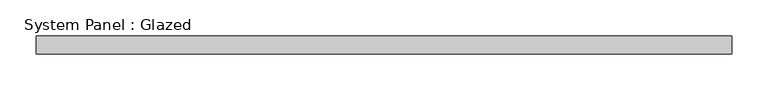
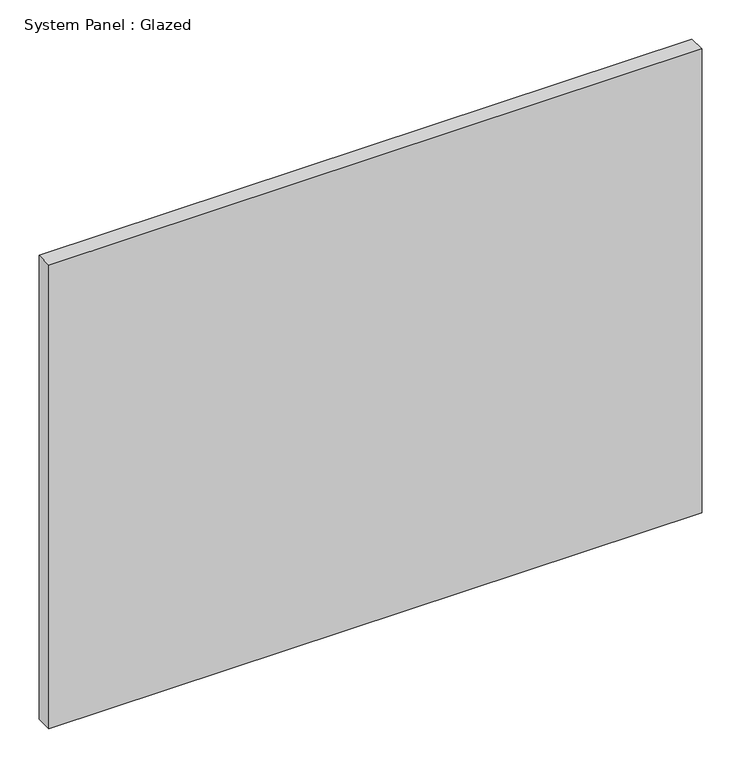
"""IFC4 building model written with IfcOpenShell, lengths in millimetres: plate geometry, System Panel : Glazed."""

from ifc_helpers import new_model, si_unit, origin, origin_with_axes, place, context, project, spatial, polyline, outline, extrude, source, transform, mapped, element, save


def system_panel_glazed_57311caf(model_context):
    return source(origin(), model_context, "Body", "SweptSolid", [
        extrude(outline(polyline([(482.5, 24.5), (-482.5, 24.5), (-482.5, 49.5), (482.5, 49.5), (482.5, 24.5)])), origin_with_axes(), (0.0, 0.0, 1.0), 724.4100674),
    ])


if __name__ == "__main__":
    model = new_model("IFC4")
    model_context = context("Model", 3, world=origin())
    ifc_project = project(units=[si_unit("LENGTHUNIT", "METRE", prefix="MILLI")], contexts=[model_context])
    site = spatial("IfcSite", under=ifc_project)
    building = spatial("IfcBuilding", under=site)
    placement = place(None, origin())
    system_panel_glazed_shape = system_panel_glazed_57311caf(model_context)
    element("IfcPlate", 1, ObjectType="System Panel : Glazed", at=placement, inside=building, context=model_context, shape_type="MappedRepresentation", body=[
        mapped(system_panel_glazed_shape, transform((0.0, 0.0, 0.0), x_axis=(1.0, 0.0, 0.0), y_axis=(0.0, 1.0, 0.0), z_axis=(0.0, 0.0, 1.0))),
    ])
    save(model, "model.ifc")
